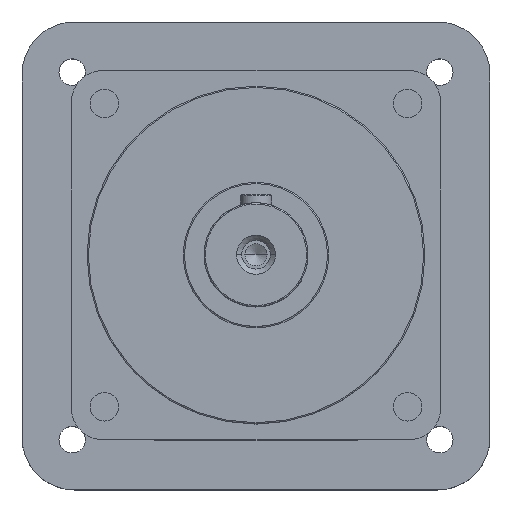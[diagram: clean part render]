
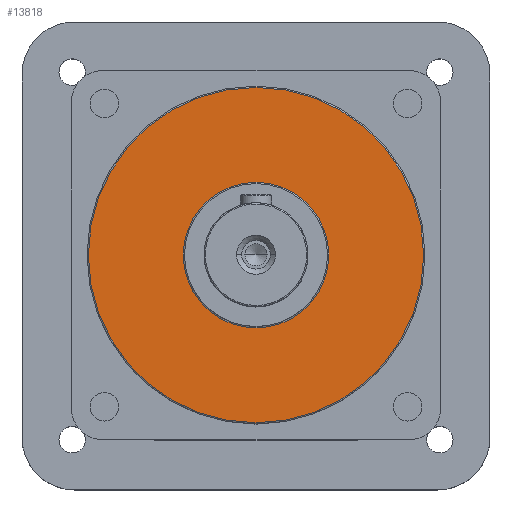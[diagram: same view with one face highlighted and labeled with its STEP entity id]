
A CAD part, top view. The second image highlights one B-rep face of the part: STEP entity #13818.
In plain terms, the highlighted planar face has unit normal (0, 0, 1).
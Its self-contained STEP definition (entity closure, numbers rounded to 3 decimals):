
#979 = VERTEX_POINT ( 'NONE', #39461 ) ;
#1228 = EDGE_LOOP ( 'NONE', ( #10206, #24811 ) ) ;
#1231 = DIRECTION ( 'NONE',  ( -1., 0., 0. ) ) ;
#1531 = DIRECTION ( 'NONE',  ( 0., 0., -1. ) ) ;
#1653 = EDGE_CURVE ( 'NONE', #39931, #979, #27070, .T. ) ;
#3902 = DIRECTION ( 'NONE',  ( -1., 0., 0. ) ) ;
#3913 = DIRECTION ( 'NONE',  ( 0., 0., -1. ) ) ;
#3943 = CARTESIAN_POINT ( 'NONE',  ( 0., 0., 205.5 ) ) ;
#4384 = PLANE ( 'NONE',  #24127 ) ;
#4561 = EDGE_CURVE ( 'NONE', #979, #39931, #15516, .T. ) ;
#5415 = DIRECTION ( 'NONE',  ( 0., 0., 1. ) ) ;
#7182 = CARTESIAN_POINT ( 'NONE',  ( 0., 0., 205.5 ) ) ;
#9640 = ORIENTED_EDGE ( 'NONE', *, *, #4561, .F. ) ;
#9859 = FACE_OUTER_BOUND ( 'NONE', #20699, .T. ) ;
#10206 = ORIENTED_EDGE ( 'NONE', *, *, #23110, .F. ) ;
#10914 = CIRCLE ( 'NONE', #24409, 28. ) ;
#13818 = ADVANCED_FACE ( 'NONE', ( #9859, #18814 ), #4384, .F. ) ;
#14933 = ORIENTED_EDGE ( 'NONE', *, *, #1653, .F. ) ;
#15516 = CIRCLE ( 'NONE', #29604, 64.5 ) ;
#17570 = CARTESIAN_POINT ( 'NONE',  ( 0., 0., 205.5 ) ) ;
#18814 = FACE_BOUND ( 'NONE', #1228, .T. ) ;
#18973 = DIRECTION ( 'NONE',  ( -1., 0., 0. ) ) ;
#18981 = DIRECTION ( 'NONE',  ( 0., 0., -1. ) ) ;
#19016 = CARTESIAN_POINT ( 'NONE',  ( 0., 0., 205.5 ) ) ;
#20699 = EDGE_LOOP ( 'NONE', ( #9640, #14933 ) ) ;
#20923 = DIRECTION ( 'NONE',  ( -1., 0., 0. ) ) ;
#23110 = EDGE_CURVE ( 'NONE', #24733, #34285, #10914, .T. ) ;
#24127 = AXIS2_PLACEMENT_3D ( 'NONE', #7182, #1531, #1231 ) ;
#24409 = AXIS2_PLACEMENT_3D ( 'NONE', #17570, #40855, #20923 ) ;
#24733 = VERTEX_POINT ( 'NONE', #40192 ) ;
#24811 = ORIENTED_EDGE ( 'NONE', *, *, #26041, .F. ) ;
#25509 = CARTESIAN_POINT ( 'NONE',  ( 0., 0., 205.5 ) ) ;
#26041 = EDGE_CURVE ( 'NONE', #34285, #24733, #38179, .T. ) ;
#26284 = CARTESIAN_POINT ( 'NONE',  ( 64.5, 0., 205.5 ) ) ;
#26488 = AXIS2_PLACEMENT_3D ( 'NONE', #25509, #5415, #28896 ) ;
#27070 = CIRCLE ( 'NONE', #36327, 64.5 ) ;
#28896 = DIRECTION ( 'NONE',  ( -1., 0., 0. ) ) ;
#29604 = AXIS2_PLACEMENT_3D ( 'NONE', #3943, #3913, #3902 ) ;
#34285 = VERTEX_POINT ( 'NONE', #39576 ) ;
#36327 = AXIS2_PLACEMENT_3D ( 'NONE', #19016, #18981, #18973 ) ;
#38179 = CIRCLE ( 'NONE', #26488, 28. ) ;
#39461 = CARTESIAN_POINT ( 'NONE',  ( -64.5, 0., 205.5 ) ) ;
#39576 = CARTESIAN_POINT ( 'NONE',  ( 28., 0., 205.5 ) ) ;
#39931 = VERTEX_POINT ( 'NONE', #26284 ) ;
#40192 = CARTESIAN_POINT ( 'NONE',  ( -28., 0., 205.5 ) ) ;
#40855 = DIRECTION ( 'NONE',  ( 0., 0., 1. ) ) ;
